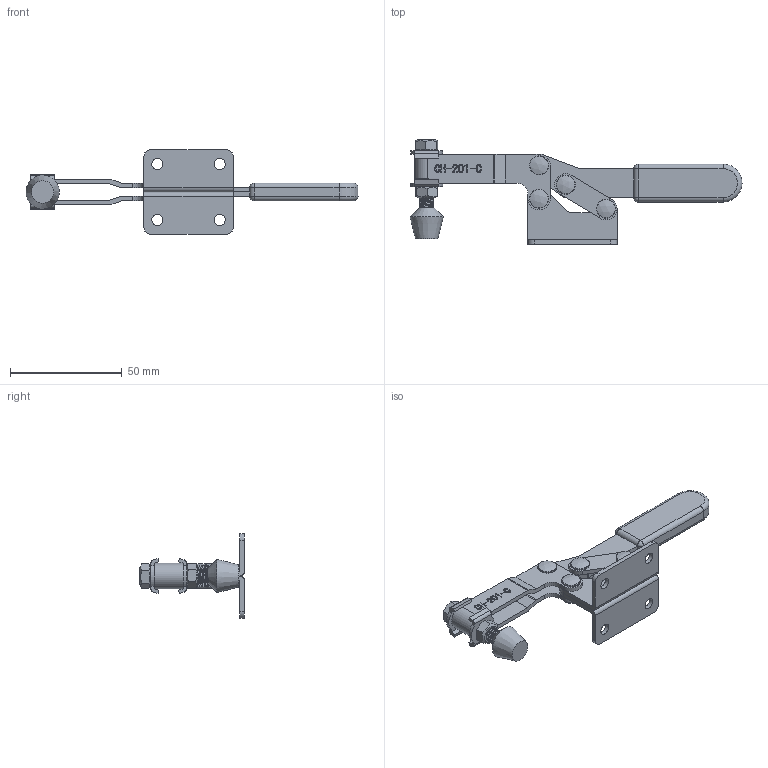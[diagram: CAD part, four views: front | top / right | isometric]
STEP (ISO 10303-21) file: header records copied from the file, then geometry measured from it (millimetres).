
FILE_DESCRIPTION(/* description */ ('STEP AP203'),/* implementation_level */ '2;1');
FILE_NAME(/* name */ 'E:\STRONA\Horizontal toggle clamp\CH-201-C\CH-201-C_ZAMKNIETY.stp',/* time_stamp */ '2019-01-15T13:04:45+01:00',/* author */ ('Admin'),/* organization */ ('·L?¤¤?'),/* preprocessor_version */ 'ST-DEVELOPER v17.2',/* originating_system */ 'Autodesk Inventor 2019',/* authorisation */ '');
FILE_SCHEMA (('AUTOMOTIVE_DESIGN { 1 0 10303 214 3 1 1 }'));
Length unit declared in the file: millimetre
Products named in the file (10): CH-201-C_ZAMKNIETY; 201-C-02___; 201-C-03___; 201-C-05___; FW140___; 201-C-01___; 201-C-06___; 201-C-04___; 14134-01___; 14134___
Assembly tree (15 placements, depth 2):
  CH-201-C_ZAMKNIETY
    201-C-02___
    201-C-06___  x4
    201-C-03___
    14134-01___  x2
    201-C-04___  x2
    201-C-05___
    FW140___  x2
    201-C-01___
    14134___
Bounding box: 148.87 x 46.89 x 38 mm (x, y, z)
Volume: 22910.3 mm3; surface area: 26694.2 mm2
Topology: 17 solids, 19 shells, 621 faces, 1719 edges, 1163 vertices
Faces by surface type: plane 260, bspline 182, cylinder 135, torus 18, cone 18, sphere 8
Full cylindrical faces by diameter (mm): 2.861 x1, 3.42 x4, 3.6 x1, 4.7 x4, 4.77 x8, 4.8 x8, 5 x4, 5.1 x6, 6.3 x2, 6.4 x26, 8.5 x8
Entity records: 37514 total; most frequent: CARTESIAN_POINT 24434, ORIENTED_EDGE 2980, DIRECTION 2038, EDGE_CURVE 1490, VERTEX_POINT 1004, LINE 804, VECTOR 804, AXIS2_PLACEMENT_3D 617
